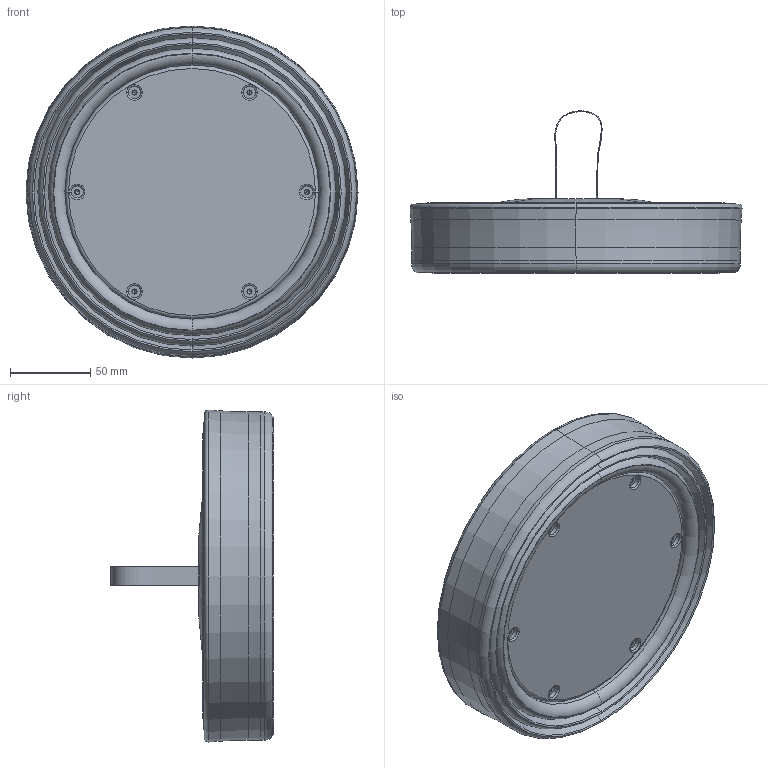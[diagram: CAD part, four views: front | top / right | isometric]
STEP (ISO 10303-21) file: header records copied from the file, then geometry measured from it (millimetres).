
FILE_DESCRIPTION (( 'STEP AP214' ), '1' );
FILE_NAME ('286_STD_OT_LD_3D-CHIUSO.STEP', '2021-05-20T15:14:13', ( '' ), ( '' ), 'SwSTEP 2.0', 'SolidWorks 2021', '' );
FILE_SCHEMA (( 'AUTOMOTIVE_DESIGN' ));
Length unit declared in the file: millimetre
Products named in the file (1): 286_STD_OT_LD_3D-CHIUSO
Bounding box: 206.6 x 100.83 x 206.6 mm (x, y, z)
Volume: 630025.9 mm3; surface area: 427732.2 mm2
Topology: 5 solids, 5 shells, 794 faces, 1948 edges, 1206 vertices
Faces by surface type: cone 248, plane 230, torus 173, cylinder 79, bspline 60, sphere 4
Entity records: 38961 total; most frequent: CARTESIAN_POINT 12018, ORIENTED_EDGE 3856, DIRECTION 3777, EDGE_CURVE 1928, AXIS2_PLACEMENT_3D 1619, VERTEX_POINT 1202, EDGE_LOOP 888, CIRCLE 884
